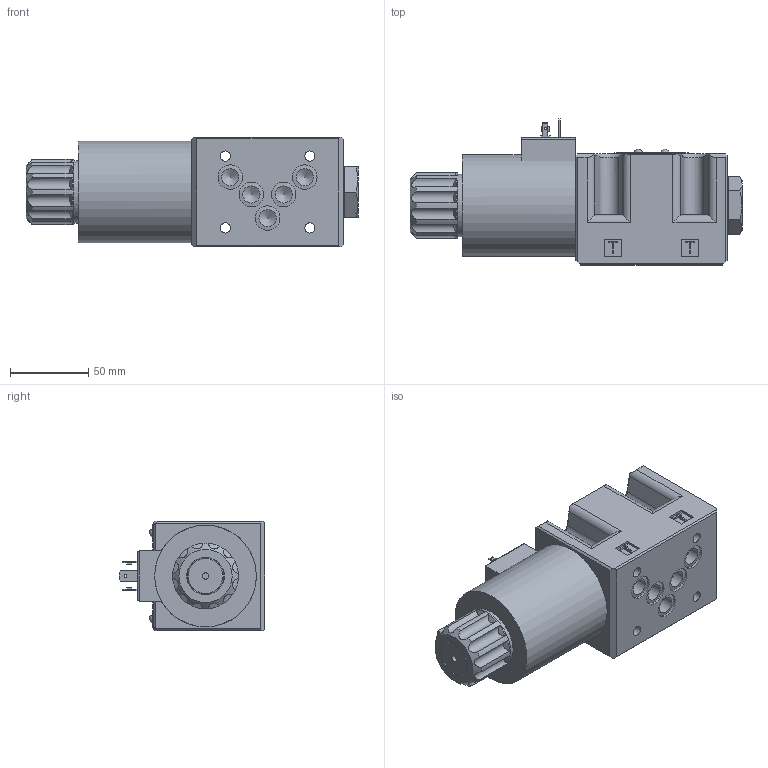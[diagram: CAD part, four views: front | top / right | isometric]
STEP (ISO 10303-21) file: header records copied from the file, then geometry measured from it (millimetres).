
FILE_DESCRIPTION(/* description */ ('STEP AP214'),/* implementation_level */ '2;1');
FILE_NAME(/* name */ 'DS5-TA_14N-D12K1',/* time_stamp */ '2024-12-22T07:12:41+01:00',/* author */ ('License CC BY-ND 4.0'),/* organization */ ('CADENAS'),/* preprocessor_version */ 'ST-DEVELOPER v19.3',/* originating_system */ 'PARTsolutions',/* authorisation */ ' ');
FILE_SCHEMA (('AUTOMOTIVE_DESIGN {1 0 10303 214 3 1 1}'));
Length unit declared in the file: millimetre
Products named in the file (8): DS5-TA/14N-D12K1; 0210544/0134671-08 - 4; 026959_; 0119383; 1903200-B; 0134669-04; 3001350200; 0530523
Assembly tree (8 placements, depth 2):
  DS5-TA/14N-D12K1
    0210544/0134671-08 - 4
    026959_
    0119383
    1903200-B
    0134669-04
    3001350200
    0530523  x2
Bounding box: 212.2 x 93.3 x 70 mm (x, y, z)
Volume: 725116.3 mm3; surface area: 108078.1 mm2
Topology: 8 solids, 8 shells, 662 faces, 1751 edges, 1155 vertices
Faces by surface type: plane 489, cylinder 125, cone 44, torus 2, sphere 2
Full cylindrical faces by diameter (mm): 1.65 x3, 2.459 x1, 2.6 x2, 2.9 x2, 4 x9, 6.5 x4, 11 x5, 12 x4, 15.7 x5, 22.376 x1, 24 x1, 25.376 x2, 27 x2, 30.8 x1, 30.98 x1, 31.3 x1, 32 x2, 36 x3, 40 x1, 42 x1, 65 x1
Entity records: 23659 total; most frequent: CARTESIAN_POINT 3773, ORIENTED_EDGE 3294, DIRECTION 3214, EDGE_CURVE 1647, LINE 1310, VECTOR 1310, VERTEX_POINT 1135, AXIS2_PLACEMENT_3D 952
